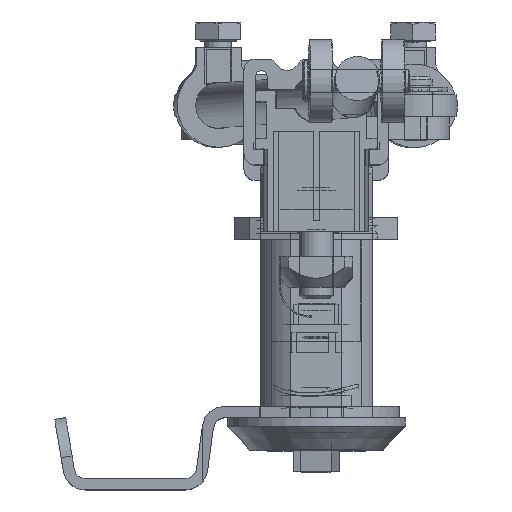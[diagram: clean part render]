
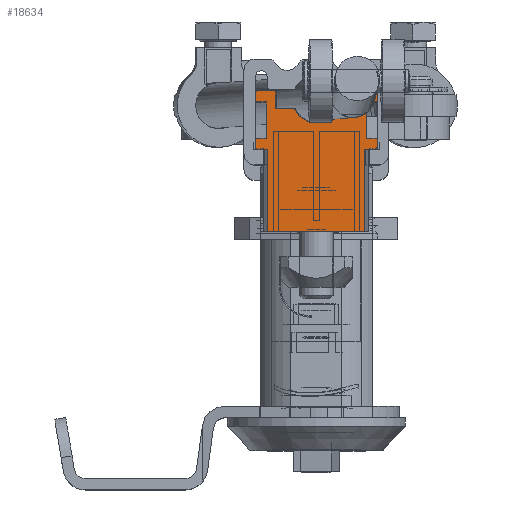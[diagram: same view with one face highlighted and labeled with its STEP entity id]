
A CAD part, top view. The second image highlights one B-rep face of the part: STEP entity #18634.
In plain terms, the highlighted planar face has unit normal (0, 0, 1) as drawn and (0, 0, -1) by its records, which use the part's own axes.
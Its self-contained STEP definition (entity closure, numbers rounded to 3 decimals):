
#18025=CARTESIAN_POINT('',(-8.7,-14.8,-12.5));
#18026=VERTEX_POINT('',#18025);
#18033=CARTESIAN_POINT('',(8.7,-14.8,-12.5));
#18034=VERTEX_POINT('',#18033);
#18035=CARTESIAN_POINT('',(-8.7,-14.8,-12.5));
#18036=DIRECTION('',(1.0,0.0,0.0));
#18037=VECTOR('',#18036,17.4);
#18038=LINE('',#18035,#18037);
#18039=EDGE_CURVE('',#18026,#18034,#18038,.T.);
#18252=CARTESIAN_POINT('',(-10.45,0.0,-12.5));
#18253=VERTEX_POINT('',#18252);
#18260=CARTESIAN_POINT('',(-8.7,0.0,-12.5));
#18261=VERTEX_POINT('',#18260);
#18262=CARTESIAN_POINT('',(-8.7,0.0,-12.5));
#18263=DIRECTION('',(-1.0,0.0,0.0));
#18264=VECTOR('',#18263,1.75);
#18265=LINE('',#18262,#18264);
#18266=EDGE_CURVE('',#18261,#18253,#18265,.T.);
#18306=CARTESIAN_POINT('',(8.7,0.0,-12.5));
#18307=VERTEX_POINT('',#18306);
#18316=CARTESIAN_POINT('',(10.45,0.0,-12.5));
#18317=VERTEX_POINT('',#18316);
#18318=CARTESIAN_POINT('',(10.45,0.0,-12.5));
#18319=DIRECTION('',(-1.0,0.0,0.0));
#18320=VECTOR('',#18319,1.75);
#18321=LINE('',#18318,#18320);
#18322=EDGE_CURVE('',#18317,#18307,#18321,.T.);
#18430=CARTESIAN_POINT('',(-8.7,0.0,-12.5));
#18431=DIRECTION('',(0.0,-1.0,0.0));
#18432=VECTOR('',#18431,14.8);
#18433=LINE('',#18430,#18432);
#18434=EDGE_CURVE('',#18261,#18026,#18433,.T.);
#18441=CARTESIAN_POINT('',(-8.7,0.0,-12.5));
#18442=DIRECTION('',(0.0,0.0,-1.0));
#18443=DIRECTION('',(-1.0,0.0,0.0));
#18444=AXIS2_PLACEMENT_3D('',#18441,#18442,#18443);
#18445=PLANE('',#18444);
#18446=CARTESIAN_POINT('',(-4.031,7.3,-12.5));
#18447=VERTEX_POINT('',#18446);
#18448=CARTESIAN_POINT('',(4.031,7.3,-12.5));
#18449=VERTEX_POINT('',#18448);
#18450=CARTESIAN_POINT('',(-4.031,7.3,-12.5));
#18451=CARTESIAN_POINT('',(-3.814,6.864,-12.5));
#18452=CARTESIAN_POINT('',(-3.179,5.978,-12.5));
#18453=CARTESIAN_POINT('',(-1.767,5.034,-12.5));
#18454=CARTESIAN_POINT('',(0.0,4.683,-12.5));
#18455=CARTESIAN_POINT('',(1.767,5.034,-12.5));
#18456=CARTESIAN_POINT('',(3.179,5.978,-12.5));
#18457=CARTESIAN_POINT('',(3.814,6.864,-12.5));
#18458=CARTESIAN_POINT('',(4.031,7.3,-12.5));
#18459=B_SPLINE_CURVE_WITH_KNOTS('',3,(#18450,#18451,#18452,#18453,#18454,#18455,#18456,#18457,#18458),.UNSPECIFIED.,.F.,.U.,(4,1,1,1,1,1,4),(0.0,0.146,0.323,0.5,0.677,0.854,1.0),.UNSPECIFIED.);
#18460=EDGE_CURVE('',#18447,#18449,#18459,.T.);
#18461=ORIENTED_EDGE('',*,*,#18460,.T.);
#18462=CARTESIAN_POINT('',(7.25,7.3,-12.5));
#18463=VERTEX_POINT('',#18462);
#18464=CARTESIAN_POINT('',(4.031,7.3,-12.5));
#18465=DIRECTION('',(1.0,0.0,0.0));
#18466=VECTOR('',#18465,3.219);
#18467=LINE('',#18464,#18466);
#18468=EDGE_CURVE('',#18449,#18463,#18467,.T.);
#18469=ORIENTED_EDGE('',*,*,#18468,.T.);
#18470=CARTESIAN_POINT('',(7.25,10.5,-12.5));
#18471=VERTEX_POINT('',#18470);
#18472=CARTESIAN_POINT('',(7.25,10.5,-12.5));
#18473=DIRECTION('',(0.0,-1.0,0.0));
#18474=VECTOR('',#18473,3.2);
#18475=LINE('',#18472,#18474);
#18476=EDGE_CURVE('',#18471,#18463,#18475,.T.);
#18477=ORIENTED_EDGE('',*,*,#18476,.F.);
#18478=CARTESIAN_POINT('',(10.45,10.5,-12.5));
#18479=VERTEX_POINT('',#18478);
#18480=CARTESIAN_POINT('',(10.45,10.5,-12.5));
#18481=DIRECTION('',(-1.0,0.0,0.0));
#18482=VECTOR('',#18481,3.2);
#18483=LINE('',#18480,#18482);
#18484=EDGE_CURVE('',#18479,#18471,#18483,.T.);
#18485=ORIENTED_EDGE('',*,*,#18484,.F.);
#18486=CARTESIAN_POINT('',(10.95,10.0,-12.5));
#18487=VERTEX_POINT('',#18486);
#18488=CARTESIAN_POINT('',(10.45,10.0,-12.5));
#18489=DIRECTION('',(0.0,0.0,-1.0));
#18490=DIRECTION('',(0.0,1.0,0.0));
#18491=AXIS2_PLACEMENT_3D('',#18488,#18489,#18490);
#18492=CIRCLE('',#18491,0.5);
#18493=EDGE_CURVE('',#18479,#18487,#18492,.T.);
#18494=ORIENTED_EDGE('',*,*,#18493,.T.);
#18495=CARTESIAN_POINT('',(10.95,8.5,-12.5));
#18496=VERTEX_POINT('',#18495);
#18497=CARTESIAN_POINT('',(10.95,8.5,-12.5));
#18498=DIRECTION('',(0.0,1.0,0.0));
#18499=VECTOR('',#18498,1.5);
#18500=LINE('',#18497,#18499);
#18501=EDGE_CURVE('',#18496,#18487,#18500,.T.);
#18502=ORIENTED_EDGE('',*,*,#18501,.F.);
#18503=CARTESIAN_POINT('',(9.0,8.5,-12.5));
#18504=VERTEX_POINT('',#18503);
#18505=CARTESIAN_POINT('',(10.95,8.5,-12.5));
#18506=DIRECTION('',(-1.0,0.0,0.0));
#18507=VECTOR('',#18506,1.95);
#18508=LINE('',#18505,#18507);
#18509=EDGE_CURVE('',#18496,#18504,#18508,.T.);
#18510=ORIENTED_EDGE('',*,*,#18509,.T.);
#18511=CARTESIAN_POINT('',(9.0,2.0,-12.5));
#18512=VERTEX_POINT('',#18511);
#18513=CARTESIAN_POINT('',(9.0,8.5,-12.5));
#18514=DIRECTION('',(0.0,-1.0,0.0));
#18515=VECTOR('',#18514,6.5);
#18516=LINE('',#18513,#18515);
#18517=EDGE_CURVE('',#18504,#18512,#18516,.T.);
#18518=ORIENTED_EDGE('',*,*,#18517,.T.);
#18519=CARTESIAN_POINT('',(10.95,2.0,-12.5));
#18520=VERTEX_POINT('',#18519);
#18521=CARTESIAN_POINT('',(10.95,2.0,-12.5));
#18522=DIRECTION('',(-1.0,0.0,0.0));
#18523=VECTOR('',#18522,1.95);
#18524=LINE('',#18521,#18523);
#18525=EDGE_CURVE('',#18520,#18512,#18524,.T.);
#18526=ORIENTED_EDGE('',*,*,#18525,.F.);
#18527=CARTESIAN_POINT('',(10.95,0.5,-12.5));
#18528=VERTEX_POINT('',#18527);
#18529=CARTESIAN_POINT('',(10.95,0.5,-12.5));
#18530=DIRECTION('',(0.0,1.0,0.0));
#18531=VECTOR('',#18530,1.5);
#18532=LINE('',#18529,#18531);
#18533=EDGE_CURVE('',#18528,#18520,#18532,.T.);
#18534=ORIENTED_EDGE('',*,*,#18533,.F.);
#18535=CARTESIAN_POINT('',(10.45,0.5,-12.5));
#18536=DIRECTION('',(0.0,0.0,1.0));
#18537=DIRECTION('',(0.0,-1.0,0.0));
#18538=AXIS2_PLACEMENT_3D('',#18535,#18536,#18537);
#18539=CIRCLE('',#18538,0.5);
#18540=EDGE_CURVE('',#18317,#18528,#18539,.T.);
#18541=ORIENTED_EDGE('',*,*,#18540,.F.);
#18542=ORIENTED_EDGE('',*,*,#18322,.T.);
#18543=CARTESIAN_POINT('',(8.7,0.0,-12.5));
#18544=DIRECTION('',(0.0,-1.0,0.0));
#18545=VECTOR('',#18544,14.8);
#18546=LINE('',#18543,#18545);
#18547=EDGE_CURVE('',#18307,#18034,#18546,.T.);
#18548=ORIENTED_EDGE('',*,*,#18547,.T.);
#18549=ORIENTED_EDGE('',*,*,#18039,.F.);
#18550=ORIENTED_EDGE('',*,*,#18434,.F.);
#18551=ORIENTED_EDGE('',*,*,#18266,.T.);
#18552=CARTESIAN_POINT('',(-10.95,0.5,-12.5));
#18553=VERTEX_POINT('',#18552);
#18554=CARTESIAN_POINT('',(-10.45,0.5,-12.5));
#18555=DIRECTION('',(0.0,0.0,-1.0));
#18556=DIRECTION('',(0.0,-1.0,0.0));
#18557=AXIS2_PLACEMENT_3D('',#18554,#18555,#18556);
#18558=CIRCLE('',#18557,0.5);
#18559=EDGE_CURVE('',#18253,#18553,#18558,.T.);
#18560=ORIENTED_EDGE('',*,*,#18559,.T.);
#18561=CARTESIAN_POINT('',(-10.95,2.0,-12.5));
#18562=VERTEX_POINT('',#18561);
#18563=CARTESIAN_POINT('',(-10.95,0.5,-12.5));
#18564=DIRECTION('',(0.0,1.0,0.0));
#18565=VECTOR('',#18564,1.5);
#18566=LINE('',#18563,#18565);
#18567=EDGE_CURVE('',#18553,#18562,#18566,.T.);
#18568=ORIENTED_EDGE('',*,*,#18567,.T.);
#18569=CARTESIAN_POINT('',(-9.0,2.0,-12.5));
#18570=VERTEX_POINT('',#18569);
#18571=CARTESIAN_POINT('',(-10.95,2.0,-12.5));
#18572=DIRECTION('',(1.0,0.0,0.0));
#18573=VECTOR('',#18572,1.95);
#18574=LINE('',#18571,#18573);
#18575=EDGE_CURVE('',#18562,#18570,#18574,.T.);
#18576=ORIENTED_EDGE('',*,*,#18575,.T.);
#18577=CARTESIAN_POINT('',(-9.0,8.5,-12.5));
#18578=VERTEX_POINT('',#18577);
#18579=CARTESIAN_POINT('',(-9.0,2.0,-12.5));
#18580=DIRECTION('',(0.0,1.0,0.0));
#18581=VECTOR('',#18580,6.5);
#18582=LINE('',#18579,#18581);
#18583=EDGE_CURVE('',#18570,#18578,#18582,.T.);
#18584=ORIENTED_EDGE('',*,*,#18583,.T.);
#18585=CARTESIAN_POINT('',(-10.95,8.5,-12.5));
#18586=VERTEX_POINT('',#18585);
#18587=CARTESIAN_POINT('',(-10.95,8.5,-12.5));
#18588=DIRECTION('',(1.0,0.0,0.0));
#18589=VECTOR('',#18588,1.95);
#18590=LINE('',#18587,#18589);
#18591=EDGE_CURVE('',#18586,#18578,#18590,.T.);
#18592=ORIENTED_EDGE('',*,*,#18591,.F.);
#18593=CARTESIAN_POINT('',(-10.95,10.0,-12.5));
#18594=VERTEX_POINT('',#18593);
#18595=CARTESIAN_POINT('',(-10.95,8.5,-12.5));
#18596=DIRECTION('',(0.0,1.0,0.0));
#18597=VECTOR('',#18596,1.5);
#18598=LINE('',#18595,#18597);
#18599=EDGE_CURVE('',#18586,#18594,#18598,.T.);
#18600=ORIENTED_EDGE('',*,*,#18599,.T.);
#18601=CARTESIAN_POINT('',(-10.45,10.5,-12.5));
#18602=VERTEX_POINT('',#18601);
#18603=CARTESIAN_POINT('',(-10.45,10.0,-12.5));
#18604=DIRECTION('',(0.0,0.0,1.0));
#18605=DIRECTION('',(0.0,1.0,0.0));
#18606=AXIS2_PLACEMENT_3D('',#18603,#18604,#18605);
#18607=CIRCLE('',#18606,0.5);
#18608=EDGE_CURVE('',#18602,#18594,#18607,.T.);
#18609=ORIENTED_EDGE('',*,*,#18608,.F.);
#18610=CARTESIAN_POINT('',(-7.25,10.5,-12.5));
#18611=VERTEX_POINT('',#18610);
#18612=CARTESIAN_POINT('',(-7.25,10.5,-12.5));
#18613=DIRECTION('',(-1.0,0.0,0.0));
#18614=VECTOR('',#18613,3.2);
#18615=LINE('',#18612,#18614);
#18616=EDGE_CURVE('',#18611,#18602,#18615,.T.);
#18617=ORIENTED_EDGE('',*,*,#18616,.F.);
#18618=CARTESIAN_POINT('',(-7.25,7.3,-12.5));
#18619=VERTEX_POINT('',#18618);
#18620=CARTESIAN_POINT('',(-7.25,10.5,-12.5));
#18621=DIRECTION('',(0.0,-1.0,0.0));
#18622=VECTOR('',#18621,3.2);
#18623=LINE('',#18620,#18622);
#18624=EDGE_CURVE('',#18611,#18619,#18623,.T.);
#18625=ORIENTED_EDGE('',*,*,#18624,.T.);
#18626=CARTESIAN_POINT('',(-7.25,7.3,-12.5));
#18627=DIRECTION('',(1.0,0.0,0.0));
#18628=VECTOR('',#18627,3.219);
#18629=LINE('',#18626,#18628);
#18630=EDGE_CURVE('',#18619,#18447,#18629,.T.);
#18631=ORIENTED_EDGE('',*,*,#18630,.T.);
#18632=EDGE_LOOP('',(#18461,#18469,#18477,#18485,#18494,#18502,#18510,#18518,#18526,#18534,#18541,#18542,#18548,#18549,#18550,#18551,#18560,#18568,#18576,#18584,#18592,#18600,#18609,#18617,#18625,#18631));
#18633=FACE_OUTER_BOUND('',#18632,.T.);
#18634=ADVANCED_FACE('',(#18633),#18445,.T.);
